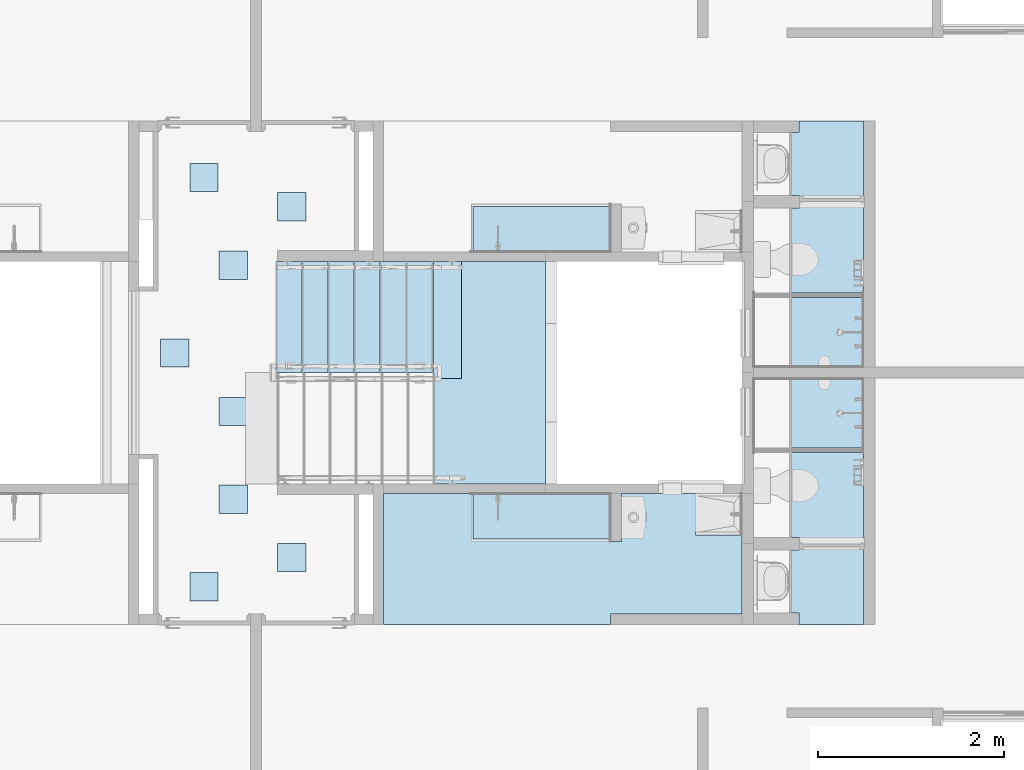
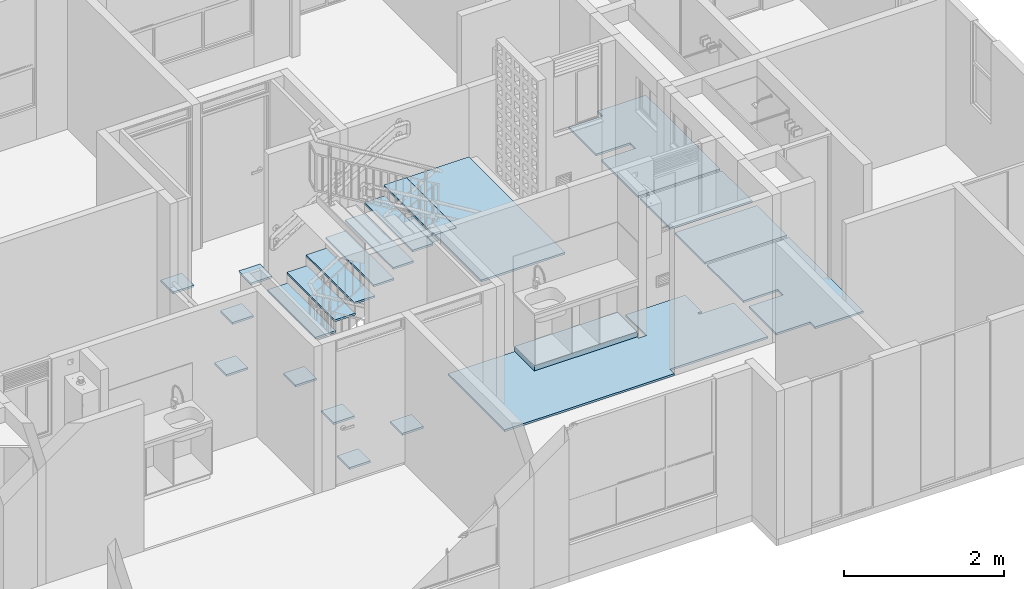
# One storey, part 2 of 51: 14 slabs.
"""IFC4 building model written with IfcOpenShell, lengths in metres."""

from ifc_helpers import new_model, entity, si_unit, converted_unit, derived_unit, direction, frame, origin, place, context, subcontext, project, spatial, indexed_curve, outline, extrude, material, constituent, constituent_set, type_object, element, save


model = new_model("IFC4")

# Units and contexts
model_context = context("Model", 3, precision=1e-05, world=origin(), true_north=direction((6.123031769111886e-17, 1.0)))
body_context = subcontext(model_context, "Body", "Model", "MODEL_VIEW")
ifc_project = project(units=[si_unit("LENGTHUNIT", "METRE"), si_unit("AREAUNIT", "SQUARE_METRE"), si_unit("VOLUMEUNIT", "CUBIC_METRE"), converted_unit("PLANEANGLEUNIT", "DEGREE", entity("IfcRatioMeasure", 0.017453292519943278), si_unit("PLANEANGLEUNIT", "RADIAN"), dimensions=[0, 0, 0, 0, 0, 0, 0]), si_unit("MASSUNIT", "GRAM", prefix="KILO"), derived_unit("MASSDENSITYUNIT", [(si_unit("MASSUNIT", "GRAM", prefix="KILO"), 1), (si_unit("LENGTHUNIT", "METRE"), -3)]), derived_unit("IONCONCENTRATIONUNIT", [(si_unit("MASSUNIT", "GRAM", prefix="KILO"), 1), (si_unit("LENGTHUNIT", "METRE"), -3)]), derived_unit("MOMENTOFINERTIAUNIT", [(si_unit("LENGTHUNIT", "METRE"), 4)]), si_unit("TIMEUNIT", "SECOND"), si_unit("FREQUENCYUNIT", "HERTZ"), si_unit("THERMODYNAMICTEMPERATUREUNIT", "DEGREE_CELSIUS"), derived_unit("THERMALTRANSMITTANCEUNIT", [(si_unit("MASSUNIT", "GRAM", prefix="KILO"), 1), (si_unit("THERMODYNAMICTEMPERATUREUNIT", "KELVIN"), -1), (si_unit("TIMEUNIT", "SECOND"), -3)]), derived_unit("THERMALCONDUCTANCEUNIT", [(si_unit("MASSUNIT", "GRAM", prefix="KILO"), 1), (si_unit("THERMODYNAMICTEMPERATUREUNIT", "KELVIN"), -1), (si_unit("TIMEUNIT", "SECOND"), -3), (si_unit("LENGTHUNIT", "METRE"), 1)]), derived_unit("VOLUMETRICFLOWRATEUNIT", [(si_unit("LENGTHUNIT", "METRE"), 3), (si_unit("TIMEUNIT", "SECOND"), -1)]), derived_unit("MASSFLOWRATEUNIT", [(si_unit("MASSUNIT", "GRAM", prefix="KILO"), 1), (si_unit("TIMEUNIT", "SECOND"), -1)]), derived_unit("ROTATIONALFREQUENCYUNIT", [(si_unit("TIMEUNIT", "SECOND"), -1)]), si_unit("ELECTRICCURRENTUNIT", "AMPERE"), si_unit("ELECTRICVOLTAGEUNIT", "VOLT"), si_unit("POWERUNIT", "WATT"), si_unit("FORCEUNIT", "NEWTON", prefix="KILO"), si_unit("ILLUMINANCEUNIT", "LUX"), si_unit("LUMINOUSFLUXUNIT", "LUMEN"), si_unit("LUMINOUSINTENSITYUNIT", "CANDELA"), derived_unit("USERDEFINED", [(si_unit("MASSUNIT", "GRAM", prefix="KILO"), -1), (si_unit("LENGTHUNIT", "METRE"), -2), (si_unit("TIMEUNIT", "SECOND"), 3), (si_unit("LUMINOUSFLUXUNIT", "LUMEN"), 1)]), derived_unit("USERDEFINED", [(si_unit("MASSUNIT", "GRAM", prefix="KILO"), 1), (si_unit("TIMEUNIT", "SECOND"), -3), (si_unit("LENGTHUNIT", "METRE"), 3), (si_unit("ELECTRICCURRENTUNIT", "AMPERE"), -2)]), derived_unit("SOUNDPOWERUNIT", [(si_unit("MASSUNIT", "GRAM", prefix="KILO"), 1), (si_unit("TIMEUNIT", "SECOND"), -3), (si_unit("LENGTHUNIT", "METRE"), 2)]), derived_unit("SOUNDPRESSUREUNIT", [(si_unit("MASSUNIT", "GRAM", prefix="KILO"), 1), (si_unit("LENGTHUNIT", "METRE"), -1), (si_unit("TIMEUNIT", "SECOND"), -2)]), derived_unit("LINEARVELOCITYUNIT", [(si_unit("LENGTHUNIT", "METRE"), 1), (si_unit("TIMEUNIT", "SECOND"), -1)]), si_unit("PRESSUREUNIT", "PASCAL"), derived_unit("USERDEFINED", [(si_unit("MASSUNIT", "GRAM", prefix="KILO"), 1), (si_unit("LENGTHUNIT", "METRE"), -2), (si_unit("TIMEUNIT", "SECOND"), -2)]), derived_unit("LINEARFORCEUNIT", [(si_unit("MASSUNIT", "GRAM", prefix="KILO"), 1), (si_unit("TIMEUNIT", "SECOND"), -2)]), derived_unit("PLANARFORCEUNIT", [(si_unit("MASSUNIT", "GRAM", prefix="KILO"), 1), (si_unit("LENGTHUNIT", "METRE"), -1), (si_unit("TIMEUNIT", "SECOND"), -2)]), derived_unit("SPECIFICHEATCAPACITYUNIT", [(si_unit("THERMODYNAMICTEMPERATUREUNIT", "KELVIN"), -1), (si_unit("LENGTHUNIT", "METRE"), 2), (si_unit("TIMEUNIT", "SECOND"), -2)]), derived_unit("HEATINGVALUEUNIT", [(si_unit("LENGTHUNIT", "METRE"), 2), (si_unit("TIMEUNIT", "SECOND"), -2)]), derived_unit("VAPORPERMEABILITYUNIT", [(si_unit("LENGTHUNIT", "METRE"), -1), (si_unit("TIMEUNIT", "SECOND"), 1)]), derived_unit("DYNAMICVISCOSITYUNIT", [(si_unit("MASSUNIT", "GRAM", prefix="KILO"), 1), (si_unit("TIMEUNIT", "SECOND"), -1), (si_unit("LENGTHUNIT", "METRE"), -1)]), derived_unit("THERMALEXPANSIONCOEFFICIENTUNIT", [(si_unit("THERMODYNAMICTEMPERATUREUNIT", "KELVIN"), -1)]), derived_unit("MODULUSOFELASTICITYUNIT", [(si_unit("MASSUNIT", "GRAM", prefix="KILO"), 1), (si_unit("LENGTHUNIT", "METRE"), -1), (si_unit("TIMEUNIT", "SECOND"), -2)]), derived_unit("ISOTHERMALMOISTURECAPACITYUNIT", [(si_unit("LENGTHUNIT", "METRE"), 3), (si_unit("MASSUNIT", "GRAM", prefix="KILO"), -1)]), derived_unit("MOISTUREDIFFUSIVITYUNIT", [(si_unit("TIMEUNIT", "SECOND"), -1), (si_unit("LENGTHUNIT", "METRE"), 2)])], contexts=[model_context])

# Site, building, storey
site_placement = place(None, origin())
site = spatial("IfcSite", under=ifc_project, at=site_placement, Name="Default", CompositionType="ELEMENT")
building_placement = place(site_placement, origin())
building = spatial("IfcBuilding", under=site, at=building_placement, CompositionType="ELEMENT")
storey_placement = place(building_placement, frame((0.0, 0.0, 2.350000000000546)))
storey = spatial("IfcBuildingStorey", under=building, at=storey_placement, Name="Nivel 2", CompositionType="ELEMENT", Elevation=2.350000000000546)

# Slabs
ifc_material_1 = material(Name="Ceramica 0.45m x 0.45m gris", Category="Materials")
ifc_constituent_1 = constituent(ifc_material_1, Name="Ceramica 0.45m x 0.45m gris", Category="Materials")
ifc_material_2 = material(Name="Mortero de pega", Category="Materials")
ifc_constituent_2 = constituent(ifc_material_2, Name="Mortero de pega", Category="Materials")
ifc_constituent_set_1 = constituent_set(constituents=[ifc_constituent_1, ifc_constituent_2], Name="Floor:C2030.20 - 0.45 x 0.45 - Enchape cerámico - Mortero de Pega + Cerámica gris")
slab_type_1 = type_object("IfcSlabType", Name="Floor:C2030.20 - 0.45 x 0.45 - Enchape cerámico - Mortero de Pega + Cerámica gris", PredefinedType="FLOOR", material=ifc_constituent_set_1)
slab_1_placement = place(storey_placement, origin())
element("IfcSlab", 1, at=slab_1_placement, inside=storey, type_object=slab_type_1, material=ifc_constituent_set_1, Name="Floor:C2030.20 - 0.45 x 0.45 - Enchape cerámico - Mortero de Pega + Cerámica gris", ObjectType="Floor:C2030.20 - 0.45 x 0.45 - Enchape cerámico - Mortero de Pega + Cerámica gris", PredefinedType="FLOOR", context=body_context, shape_type="SweptSolid", body=[
    extrude(outline(indexed_curve([(-0.5924994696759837, -0.3749999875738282), (0.5924994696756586, -0.3749999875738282), (0.5924994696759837, 0.3749999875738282), (-0.5924994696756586, 0.3749999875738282), (-0.5924994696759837, -0.3749999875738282)], self_intersect=False)), frame((15.274999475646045, -5.990000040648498, 0.020000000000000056)), (0.0, 0.0, 1.0), 0.009999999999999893),
    extrude(outline(indexed_curve([(0.19500000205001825, -0.43399957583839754), (1.1099999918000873, -0.4339995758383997), (1.109999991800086, 0.7509993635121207), (-0.7449999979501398, 0.7509993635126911), (-0.7449999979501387, 0.056000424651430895), (-0.6199999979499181, 0.05600042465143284), (-0.6199999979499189, -0.43399957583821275), (0.06000000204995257, -0.4339995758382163), (0.060000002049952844, 0.060999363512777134), (0.19500000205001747, 0.06099936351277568), (0.19500000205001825, -0.43399957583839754)], self_intersect=False)), frame((15.116499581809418, -4.45500006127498, 0.020000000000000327), z_axis=(0.0, 0.0, 1.0), x_axis=(0.0, -1.0, 0.0)), (0.0, 0.0, 1.0), 0.009999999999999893),
    extrude(outline(indexed_curve([(-1.1099999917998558, -0.7509993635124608), (0.74499999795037, -0.7509993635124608), (0.7449999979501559, -0.05600042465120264), (0.6199999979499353, -0.056000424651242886), (0.6199999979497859, 0.4339995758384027), (-0.06000000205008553, 0.43399957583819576), (-0.06000000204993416, -0.060999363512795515), (-0.1950000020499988, -0.060999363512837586), (-0.19500000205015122, 0.4339995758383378), (-1.1099999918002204, 0.4339995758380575), (-1.1099999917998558, -0.7509993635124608)], self_intersect=False)), frame((15.116499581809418, -4.45500006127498, 0.0), z_axis=(0.0, 0.0, 1.0), x_axis=(0.0, 1.0, 0.0)), (0.0, 0.0, 1.0), 0.020000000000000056),
    extrude(outline(indexed_curve([(-0.5924994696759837, -0.3749999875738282), (0.5924994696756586, -0.3749999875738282), (0.5924994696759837, 0.3749999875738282), (-0.5924994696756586, 0.3749999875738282), (-0.5924994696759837, -0.3749999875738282)], self_intersect=False)), frame((15.274999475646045, -5.990000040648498, 0.0)), (0.0, 0.0, 1.0), 0.020000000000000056),
])
slab_2_placement = place(storey_placement, origin())
element("IfcSlab", 2, at=slab_2_placement, inside=storey, type_object=slab_type_1, material=ifc_constituent_set_1, Name="Floor:C2030.20 - 0.45 x 0.45 - Enchape cerámico - Mortero de Pega + Cerámica gris", ObjectType="Floor:C2030.20 - 0.45 x 0.45 - Enchape cerámico - Mortero de Pega + Cerámica gris", PredefinedType="FLOOR", context=body_context, shape_type="SweptSolid", body=[
    extrude(outline(indexed_curve([(-0.5924994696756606, -0.37499998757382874), (0.5924994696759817, -0.37499998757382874), (0.5924994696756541, 0.37499998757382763), (-0.592499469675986, 0.37499998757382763), (-0.5924994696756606, -0.37499998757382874)], self_intersect=False)), frame((15.274999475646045, -6.8600000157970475, 0.019999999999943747)), (0.0, 0.0, 1.0), 0.009999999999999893),
    extrude(outline(indexed_curve([(-0.19500000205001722, -0.06099936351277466), (-0.19500000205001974, 0.4339995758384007), (-1.1099999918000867, 0.43399957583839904), (-1.109999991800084, -0.750999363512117), (0.7449999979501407, -0.750999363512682), (0.744999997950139, -0.056000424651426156), (0.6199999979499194, -0.05600042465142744), (0.6199999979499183, 0.43399957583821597), (-0.0600000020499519, 0.43399957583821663), (-0.06000000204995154, -0.06099936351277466), (-0.19500000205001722, -0.06099936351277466)], self_intersect=False)), frame((15.116499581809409, -8.394999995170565, 0.019999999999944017), z_axis=(0.0, 0.0, -1.0), x_axis=(0.0, -1.0, 0.0)), (0.0, 0.0, -1.0), 0.009999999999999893),
    extrude(outline(indexed_curve([(-0.7509993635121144, -1.1099999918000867), (0.4339995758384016, -1.1099999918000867), (0.4339995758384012, -0.19500000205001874), (-0.0609993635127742, -0.19500000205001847), (-0.06099936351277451, -0.06000000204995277), (0.4339995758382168, -0.06000000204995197), (0.4339995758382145, 0.6199999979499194), (-0.05600042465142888, 0.6199999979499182), (-0.0560004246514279, 0.7449999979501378), (-0.750999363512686, 0.7449999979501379), (-0.7509993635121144, -1.1099999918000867)], self_intersect=False)), frame((15.116499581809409, -8.394999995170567, 0.0), z_axis=(0.0, 0.0, 1.0), x_axis=(-1.0, 0.0, 0.0)), (0.0, 0.0, 1.0), 0.020000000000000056),
    extrude(outline(indexed_curve([(-0.37499998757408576, -0.5924994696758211), (0.3749999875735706, -0.5924994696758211), (0.3749999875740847, 0.5924994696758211), (-0.37499998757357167, 0.5924994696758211), (-0.37499998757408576, -0.5924994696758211)], self_intersect=False)), frame((15.274999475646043, -6.860000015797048, 0.0), z_axis=(0.0, 0.0, 1.0), x_axis=(0.0, -1.0, 0.0)), (0.0, 0.0, 1.0), 0.020000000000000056),
])
slab_3_placement = place(storey_placement, origin())
element("IfcSlab", 3, at=slab_3_placement, inside=storey, type_object=slab_type_1, material=ifc_constituent_set_1, Name="Floor:C2030.20 - 0.45 x 0.45 - Enchape cerámico - Mortero de Pega + Cerámica gris", ObjectType="Floor:C2030.20 - 0.45 x 0.45 - Enchape cerámico - Mortero de Pega + Cerámica gris", PredefinedType="FLOOR", context=body_context, shape_type="SweptSolid", body=[
    extrude(outline(indexed_curve([(0.06375012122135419, -0.7259999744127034), (1.4787501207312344, -0.7259999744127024), (1.4787501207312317, 0.1239999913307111), (0.9787496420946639, 0.12399999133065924), (0.9787496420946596, 0.15799999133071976), (1.038749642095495, 0.15799999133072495), (1.0387496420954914, 0.5734999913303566), (0.1787501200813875, 0.5734999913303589), (0.17875012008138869, 0.05399999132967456), (0.06375012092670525, 0.053999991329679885), (0.06375012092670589, 0.08399999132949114), (-1.4212498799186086, 0.08399999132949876), (-1.4212498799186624, 0.573499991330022), (-2.3812498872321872, 0.5734999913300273), (-2.381249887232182, -0.8409999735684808), (0.0637501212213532, -0.8409999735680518), (0.06375012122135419, -0.7259999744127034)], self_intersect=False)), frame((13.07874988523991, -8.299000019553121, 0.019999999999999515)), (0.0, 0.0, 1.0), 0.009999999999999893),
    extrude(outline(indexed_curve([(-0.8409999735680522, 0.06375012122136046), (-0.8409999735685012, -2.3812498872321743), (0.5734999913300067, -2.381249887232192), (0.5734999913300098, -1.4212498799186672), (0.08399999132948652, -1.4212498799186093), (0.08399999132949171, 0.06375012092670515), (0.05399999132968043, 0.06375012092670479), (0.0539999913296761, 0.17875012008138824), (0.5734999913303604, 0.17875012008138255), (0.5734999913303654, 1.0387496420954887), (0.15799999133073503, 1.0387496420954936), (0.15799999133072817, 0.9787496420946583), (0.12399999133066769, 0.9787496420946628), (0.12399999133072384, 1.4787501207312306), (-0.7259999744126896, 1.4787501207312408), (-0.7259999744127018, 0.06375012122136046), (-0.8409999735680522, 0.06375012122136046)], self_intersect=False)), frame((13.07874988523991, -8.299000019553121, 0.0), z_axis=(0.0, 0.0, -1.0), x_axis=(0.0, 1.0, 0.0)), (0.0, 0.0, -1.0), 0.020000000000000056),
])
ifc_material_3 = material(Name="escalgres", Category="Materials")
ifc_constituent_3 = constituent(ifc_material_3, Name="escalgres", Category="Materials")
ifc_constituent_4 = constituent(ifc_material_2, Name="Mortero de pega", Category="Materials")
ifc_constituent_set_2 = constituent_set(constituents=[ifc_constituent_3, ifc_constituent_4], Name="Floor:C2030.20 -30x30- Escalgres - Gres")
slab_type_2 = type_object("IfcSlabType", Name="Floor:C2030.20 -30x30- Escalgres - Gres", PredefinedType="FLOOR", material=ifc_constituent_set_2)
slab_4_placement = place(storey_placement, origin())
element("IfcSlab", 4, at=slab_4_placement, inside=storey, type_object=slab_type_2, material=ifc_constituent_set_2, Name="Floor:C2030.20 -30x30- Escalgres - Gres", ObjectType="Floor:C2030.20 -30x30- Escalgres - Gres", PredefinedType="FLOOR", context=body_context, shape_type="SweptSolid", body=[
    extrude(outline(indexed_curve([(-0.14749999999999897, -0.6000000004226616), (0.14750000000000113, -0.6000000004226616), (0.14750000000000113, 0.6000000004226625), (-0.14749999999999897, 0.6000000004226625), (-0.14749999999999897, -0.6000000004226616)], self_intersect=False)), frame((9.685000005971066, -5.825000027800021, 0.18785714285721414), z_axis=(0.0, 0.0, 1.0), x_axis=(-1.0, 0.0, 0.0)), (0.0, 0.0, 1.0), 0.009999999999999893),
    extrude(outline(indexed_curve([(-0.14749999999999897, -0.6000000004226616), (0.14750000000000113, -0.6000000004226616), (0.14750000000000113, 0.6000000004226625), (-0.14749999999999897, 0.6000000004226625), (-0.14749999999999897, -0.6000000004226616)], self_intersect=False)), frame((9.685000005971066, -5.825000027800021, 0.1678571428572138), z_axis=(0.0, 0.0, 1.0), x_axis=(-1.0, 0.0, 0.0)), (0.0, 0.0, 1.0), 0.020000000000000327),
])
slab_5_placement = place(storey_placement, origin())
element("IfcSlab", 5, at=slab_5_placement, inside=storey, type_object=slab_type_2, material=ifc_constituent_set_2, Name="Floor:C2030.20 -30x30- Escalgres - Gres", ObjectType="Floor:C2030.20 -30x30- Escalgres - Gres", PredefinedType="FLOOR", context=body_context, shape_type="SweptSolid", body=[
    extrude(outline(indexed_curve([(-0.14749999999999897, -0.6000000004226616), (0.14750000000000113, -0.6000000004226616), (0.14750000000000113, 0.6000000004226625), (-0.14749999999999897, 0.6000000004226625), (-0.14749999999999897, -0.6000000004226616)], self_intersect=False)), frame((9.965000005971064, -5.825000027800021, 0.35571428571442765), z_axis=(0.0, 0.0, 1.0), x_axis=(-1.0, 0.0, 0.0)), (0.0, 0.0, 1.0), 0.009999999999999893),
    extrude(outline(indexed_curve([(-0.14749999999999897, -0.6000000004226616), (0.14750000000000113, -0.6000000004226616), (0.14750000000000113, 0.6000000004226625), (-0.14749999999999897, 0.6000000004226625), (-0.14749999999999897, -0.6000000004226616)], self_intersect=False)), frame((9.965000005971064, -5.825000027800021, 0.33571428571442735), z_axis=(0.0, 0.0, 1.0), x_axis=(-1.0, 0.0, 0.0)), (0.0, 0.0, 1.0), 0.020000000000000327),
])
slab_6_placement = place(storey_placement, origin())
element("IfcSlab", 6, at=slab_6_placement, inside=storey, type_object=slab_type_2, material=ifc_constituent_set_2, Name="Floor:C2030.20 -30x30- Escalgres - Gres", ObjectType="Floor:C2030.20 -30x30- Escalgres - Gres", PredefinedType="FLOOR", context=body_context, shape_type="SweptSolid", body=[
    extrude(outline(indexed_curve([(-0.14749999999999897, -0.6000000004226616), (0.1474999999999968, -0.6000000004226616), (0.1474999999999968, 0.6000000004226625), (-0.14749999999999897, 0.6000000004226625), (-0.14749999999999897, -0.6000000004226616)], self_intersect=False)), frame((10.245000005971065, -5.825000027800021, 0.5235714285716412), z_axis=(0.0, 0.0, 1.0), x_axis=(-1.0, 0.0, 0.0)), (0.0, 0.0, 1.0), 0.009999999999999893),
    extrude(outline(indexed_curve([(-0.14749999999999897, -0.6000000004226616), (0.1474999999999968, -0.6000000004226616), (0.1474999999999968, 0.6000000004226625), (-0.14749999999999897, 0.6000000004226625), (-0.14749999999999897, -0.6000000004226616)], self_intersect=False)), frame((10.245000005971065, -5.825000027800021, 0.5035714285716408), z_axis=(0.0, 0.0, 1.0), x_axis=(-1.0, 0.0, 0.0)), (0.0, 0.0, 1.0), 0.020000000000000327),
])
slab_7_placement = place(storey_placement, origin())
element("IfcSlab", 7, at=slab_7_placement, inside=storey, type_object=slab_type_2, material=ifc_constituent_set_2, Name="Floor:C2030.20 -30x30- Escalgres - Gres", ObjectType="Floor:C2030.20 -30x30- Escalgres - Gres", PredefinedType="FLOOR", context=body_context, shape_type="SweptSolid", body=[
    extrude(outline(indexed_curve([(-0.14750000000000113, -0.6000000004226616), (0.14750000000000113, -0.6000000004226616), (0.14750000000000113, 0.6000000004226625), (-0.14750000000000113, 0.6000000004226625), (-0.14750000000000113, -0.6000000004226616)], self_intersect=False)), frame((10.525000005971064, -5.825000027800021, 0.6914285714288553), z_axis=(0.0, 0.0, 1.0), x_axis=(-1.0, 0.0, 0.0)), (0.0, 0.0, 1.0), 0.009999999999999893),
    extrude(outline(indexed_curve([(-0.14750000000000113, -0.6000000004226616), (0.14750000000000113, -0.6000000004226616), (0.14750000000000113, 0.6000000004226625), (-0.14750000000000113, 0.6000000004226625), (-0.14750000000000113, -0.6000000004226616)], self_intersect=False)), frame((10.525000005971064, -5.825000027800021, 0.6714285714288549), z_axis=(0.0, 0.0, 1.0), x_axis=(-1.0, 0.0, 0.0)), (0.0, 0.0, 1.0), 0.020000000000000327),
])
slab_8_placement = place(storey_placement, origin())
element("IfcSlab", 8, at=slab_8_placement, inside=storey, type_object=slab_type_2, material=ifc_constituent_set_2, Name="Floor:C2030.20 -30x30- Escalgres - Gres", ObjectType="Floor:C2030.20 -30x30- Escalgres - Gres", PredefinedType="FLOOR", context=body_context, shape_type="SweptSolid", body=[
    extrude(outline(indexed_curve([(-0.14749999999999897, -0.6000000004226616), (0.14750000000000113, -0.6000000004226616), (0.14750000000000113, 0.6000000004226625), (-0.14749999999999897, 0.6000000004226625), (-0.14749999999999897, -0.6000000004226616)], self_intersect=False)), frame((10.805000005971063, -5.825000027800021, 0.8592857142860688), z_axis=(0.0, 0.0, 1.0), x_axis=(-1.0, 0.0, 0.0)), (0.0, 0.0, 1.0), 0.009999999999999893),
    extrude(outline(indexed_curve([(-0.14749999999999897, -0.6000000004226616), (0.14750000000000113, -0.6000000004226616), (0.14750000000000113, 0.6000000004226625), (-0.14749999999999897, 0.6000000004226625), (-0.14749999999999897, -0.6000000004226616)], self_intersect=False)), frame((10.805000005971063, -5.825000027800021, 0.8392857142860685), z_axis=(0.0, 0.0, 1.0), x_axis=(-1.0, 0.0, 0.0)), (0.0, 0.0, 1.0), 0.020000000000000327),
])
slab_9_placement = place(storey_placement, origin())
element("IfcSlab", 9, at=slab_9_placement, inside=storey, type_object=slab_type_2, material=ifc_constituent_set_2, Name="Floor:C2030.20 -30x30- Escalgres - Gres", ObjectType="Floor:C2030.20 -30x30- Escalgres - Gres", PredefinedType="FLOOR", context=body_context, shape_type="SweptSolid", body=[
    extrude(outline(indexed_curve([(-0.14749999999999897, -0.6000000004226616), (0.14749999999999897, -0.6000000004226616), (0.14749999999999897, 0.6000000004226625), (-0.14749999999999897, 0.6000000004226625), (-0.14749999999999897, -0.6000000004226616)], self_intersect=False)), frame((11.085000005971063, -5.825000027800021, 1.0271428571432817), z_axis=(0.0, 0.0, 1.0), x_axis=(-1.0, 0.0, 0.0)), (0.0, 0.0, 1.0), 0.009999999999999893),
    extrude(outline(indexed_curve([(-0.14749999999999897, -0.6000000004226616), (0.14749999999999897, -0.6000000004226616), (0.14749999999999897, 0.6000000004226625), (-0.14749999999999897, 0.6000000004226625), (-0.14749999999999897, -0.6000000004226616)], self_intersect=False)), frame((11.085000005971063, -5.825000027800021, 1.0071428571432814), z_axis=(0.0, 0.0, 1.0), x_axis=(-1.0, 0.0, 0.0)), (0.0, 0.0, 1.0), 0.020000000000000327),
])
slab_10_placement = place(storey_placement, origin())
element("IfcSlab", 10, at=slab_10_placement, inside=storey, type_object=slab_type_2, material=ifc_constituent_set_2, Name="Floor:C2030.20 -30x30- Escalgres - Gres", ObjectType="Floor:C2030.20 -30x30- Escalgres - Gres", PredefinedType="FLOOR", context=body_context, shape_type="SweptSolid", body=[
    extrude(outline(indexed_curve([(-0.5050000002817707, -1.1798333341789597), (0.7050000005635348, -1.1798333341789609), (0.7050000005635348, 1.220166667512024), (-0.20000000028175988, 1.220166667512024), (-0.20000000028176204, -0.040333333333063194), (-0.5050000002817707, -0.04033333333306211), (-0.5050000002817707, -1.1798333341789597)], self_intersect=False)), frame((11.737500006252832, -6.445166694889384, 1.194999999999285)), (0.0, 0.0, 1.0), 0.009999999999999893),
    extrude(outline(indexed_curve([(-0.5050000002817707, -1.1798333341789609), (0.7050000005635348, -1.1798333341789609), (0.7050000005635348, 1.220166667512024), (-0.20000000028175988, 1.220166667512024), (-0.20000000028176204, -0.040333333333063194), (-0.5050000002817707, -0.04033333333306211), (-0.5050000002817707, -1.1798333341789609)], self_intersect=False)), frame((11.737500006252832, -6.445166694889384, 1.1749999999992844)), (0.0, 0.0, 1.0), 0.020000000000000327),
])
slab_11_placement = place(storey_placement, origin())
element("IfcSlab", 11, at=slab_11_placement, inside=storey, type_object=slab_type_2, material=ifc_constituent_set_2, Name="Floor:C2030.20 -30x30- Escalgres - Gres", ObjectType="Floor:C2030.20 -30x30- Escalgres - Gres", PredefinedType="FLOOR", context=body_context, shape_type="SweptSolid", body=[
    extrude(outline(indexed_curve([(-0.09666666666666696, -0.4403333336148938), (0.20833333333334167, -0.4403333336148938), (0.20833333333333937, 0.8201666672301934), (-0.11166666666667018, 0.8201666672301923), (-0.11166666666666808, -0.37983333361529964), (-0.09666666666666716, -0.3798333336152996), (-0.09666666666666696, -0.4403333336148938)], self_intersect=False)), frame((11.32916667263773, -6.045166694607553, 1.1949999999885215)), (0.0, 0.0, 1.0), 0.009999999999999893),
    extrude(outline(indexed_curve([(-0.09666666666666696, -0.4403333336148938), (0.20833333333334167, -0.4403333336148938), (0.20833333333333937, 0.8201666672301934), (-0.11166666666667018, 0.8201666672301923), (-0.11166666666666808, -0.37983333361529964), (-0.09666666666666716, -0.3798333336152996), (-0.09666666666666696, -0.4403333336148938)], self_intersect=False)), frame((11.32916667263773, -6.045166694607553, 1.1749999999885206)), (0.0, 0.0, 1.0), 0.020000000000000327),
])
ifc_material_4 = material(Name="Concreto (Aire)", Category="Materials")
slab_type_3 = type_object("IfcSlabType", Name="Floor:B1010 - 0.10m - Poyo - Concreto", PredefinedType="FLOOR", material=ifc_material_4)
slab_12_placement = place(storey_placement, origin())
element("IfcSlab", 12, at=slab_12_placement, inside=storey, type_object=slab_type_3, material=ifc_material_4, Name="Floor:B1010 - 0.10m - Poyo - Concreto", ObjectType="Floor:B1010 - 0.10m - Poyo - Concreto", PredefinedType="FLOOR", context=body_context, shape_type="SweptSolid", body=[
    extrude(outline(indexed_curve([(-0.24475000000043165, -0.7425000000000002), (0.24475000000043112, -0.7425000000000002), (0.24475000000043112, 0.7425000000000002), (-0.24475000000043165, 0.7425000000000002), (-0.24475000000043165, -0.7425000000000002)], self_intersect=False)), frame((12.400000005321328, -4.879750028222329, 0.11000000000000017), z_axis=(0.0, 0.0, -1.0), x_axis=(0.0, 1.0, 0.0)), (0.0, 0.0, 1.0), 0.1099999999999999),
])
slab_13_placement = place(storey_placement, origin())
element("IfcSlab", 13, at=slab_13_placement, inside=storey, type_object=slab_type_3, material=ifc_material_4, Name="Floor:B1010 - 0.10m - Poyo - Concreto", ObjectType="Floor:B1010 - 0.10m - Poyo - Concreto", PredefinedType="FLOOR", context=body_context, shape_type="SweptSolid", body=[
    extrude(outline(indexed_curve([(-0.2447500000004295, -0.742499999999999), (0.24475000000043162, -0.742499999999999), (0.24475000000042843, 0.7425000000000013), (-0.2447500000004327, 0.7425000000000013), (-0.2447500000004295, -0.742499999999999)], self_intersect=False)), frame((12.400000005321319, -7.9702500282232, 0.11000000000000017), z_axis=(0.0, 0.0, -1.0), x_axis=(0.0, 1.0, 0.0)), (0.0, 0.0, 1.0), 0.1099999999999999),
])
ifc_material_5 = material(Name="PISO GRES moca 30X30", Category="Materials")
ifc_constituent_5 = constituent(ifc_material_5, Name="PISO GRES moca 30X30", Category="Materials")
ifc_constituent_6 = constituent(ifc_material_2, Name="Mortero de pega", Category="Materials")
ifc_constituent_set_3 = constituent_set(constituents=[ifc_constituent_5, ifc_constituent_6], Name="Floor:C2030.20 - Piso en gres - Gres moca")
slab_type_4 = type_object("IfcSlabType", Name="Floor:C2030.20 - Piso en gres - Gres moca", PredefinedType="FLOOR", material=ifc_constituent_set_3)
slab_14_placement = place(storey_placement, origin())
element("IfcSlab", 14, at=slab_14_placement, inside=storey, type_object=slab_type_4, material=ifc_constituent_set_3, Name="Floor:C2030.20 - Piso en gres - Gres moca", ObjectType="Floor:C2030.20 - Piso en gres - Gres moca", PredefinedType="FLOOR", context=body_context, shape_type="SweptSolid", body=[
    extrude(outline(indexed_curve([(-0.15249999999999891, -0.15249999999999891), (0.15249999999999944, -0.1525), (0.15249999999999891, 0.15250000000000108), (-0.15249999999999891, 0.1525), (-0.15249999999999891, -0.15249999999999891)], self_intersect=False)), frame((8.760000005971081, -4.32250002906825, 0.020000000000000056), z_axis=(0.0, 0.0, 1.0), x_axis=(0.0, -1.0, 0.0)), (0.0, 0.0, 1.0), 0.009999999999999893),
    extrude(outline(indexed_curve([(-0.1525, -0.15250000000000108), (0.15250000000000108, -0.15250000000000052), (0.15250000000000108, 0.15250000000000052), (-0.1525, 0.15250000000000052), (-0.1525, -0.15250000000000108)], self_intersect=False)), frame((9.705000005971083, -4.637500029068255, 0.020000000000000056)), (0.0, 0.0, 1.0), 0.009999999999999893),
    extrude(outline(indexed_curve([(-0.1525, -0.15250000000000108), (0.1525, -0.15250000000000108), (0.1525, 0.1525), (-0.1525, 0.1525), (-0.1525, -0.15250000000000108)], self_intersect=False)), frame((9.075000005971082, -5.267500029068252, 0.020000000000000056), z_axis=(0.0, 0.0, 1.0), x_axis=(-1.0, 0.0, 0.0)), (0.0, 0.0, 1.0), 0.009999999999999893),
    extrude(outline(indexed_curve([(-0.1525, -0.1525), (0.15249999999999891, -0.15250000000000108), (0.15249999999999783, 0.1525), (-0.1525, 0.1525), (-0.1525, -0.1525)], self_intersect=False)), frame((8.445000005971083, -6.212500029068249, 0.020000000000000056), z_axis=(0.0, 0.0, 1.0), x_axis=(0.0, -1.0, 0.0)), (0.0, 0.0, 1.0), 0.009999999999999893),
    extrude(outline(indexed_curve([(-0.1525, -0.1525), (0.15249999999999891, -0.15249999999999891), (0.15249999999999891, 0.1525), (-0.1525, 0.1525), (-0.1525, -0.1525)], self_intersect=False)), frame((9.075000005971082, -6.842500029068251, 0.020000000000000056), z_axis=(0.0, 0.0, 1.0), x_axis=(0.0, 1.0, 0.0)), (0.0, 0.0, 1.0), 0.009999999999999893),
    extrude(outline(indexed_curve([(-0.1525, -0.1525), (0.15249999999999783, -0.15249999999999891), (0.15249999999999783, 0.1525), (-0.1525, 0.1525), (-0.1525, -0.1525)], self_intersect=False)), frame((9.075000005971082, -7.787500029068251, 0.020000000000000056), z_axis=(0.0, 0.0, 1.0), x_axis=(0.0, 1.0, 0.0)), (0.0, 0.0, 1.0), 0.009999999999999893),
    extrude(outline(indexed_curve([(-0.15250000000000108, -0.1525), (0.1525, -0.1525), (0.15250000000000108, 0.15250000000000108), (-0.15250000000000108, 0.1525), (-0.15250000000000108, -0.1525)], self_intersect=False)), frame((9.705000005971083, -8.417500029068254, 0.020000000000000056), z_axis=(0.0, 0.0, 1.0), x_axis=(-1.0, 0.0, 0.0)), (0.0, 0.0, 1.0), 0.009999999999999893),
    extrude(outline(indexed_curve([(-0.15249999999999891, -0.15249999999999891), (0.1525, -0.1525), (0.1525, 0.15250000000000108), (-0.15249999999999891, 0.1525), (-0.15249999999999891, -0.15249999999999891)], self_intersect=False)), frame((8.760000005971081, -8.73250002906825, 0.020000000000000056), z_axis=(0.0, 0.0, 1.0), x_axis=(0.0, -1.0, 0.0)), (0.0, 0.0, 1.0), 0.009999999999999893),
    extrude(outline(indexed_curve([(-0.15249999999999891, -0.1525), (0.15249999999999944, -0.1525), (0.15249999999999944, 0.1525), (-0.15249999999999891, 0.1525), (-0.15249999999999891, -0.1525)], self_intersect=False)), frame((8.760000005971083, -4.32250002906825, 0.0), z_axis=(0.0, 0.0, 1.0), x_axis=(0.0, -1.0, 0.0)), (0.0, 0.0, 1.0), 0.020000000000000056),
    extrude(outline(indexed_curve([(-0.15250000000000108, -0.15250000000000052), (0.1525, -0.15250000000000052), (0.1525, 0.15250000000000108), (-0.15250000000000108, 0.15250000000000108), (-0.15250000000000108, -0.15250000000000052)], self_intersect=False)), frame((9.705000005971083, -4.637500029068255, 0.0)), (0.0, 0.0, 1.0), 0.020000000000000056),
    extrude(outline(indexed_curve([(-0.1525, -0.15250000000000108), (0.1525, -0.15250000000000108), (0.1525, 0.1525), (-0.1525, 0.1525), (-0.1525, -0.15250000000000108)], self_intersect=False)), frame((9.075000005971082, -5.267500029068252, 0.0), z_axis=(0.0, 0.0, 1.0), x_axis=(-1.0, 0.0, 0.0)), (0.0, 0.0, 1.0), 0.020000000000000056),
    extrude(outline(indexed_curve([(-0.1525, -0.1525), (0.15249999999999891, -0.1525), (0.15249999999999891, 0.1525), (-0.1525, 0.1525), (-0.1525, -0.1525)], self_intersect=False)), frame((8.445000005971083, -6.212500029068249, 0.0), z_axis=(0.0, 0.0, 1.0), x_axis=(0.0, -1.0, 0.0)), (0.0, 0.0, 1.0), 0.020000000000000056),
    extrude(outline(indexed_curve([(-0.1525, -0.1525), (0.15249999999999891, -0.1525), (0.15249999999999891, 0.1525), (-0.1525, 0.1525), (-0.1525, -0.1525)], self_intersect=False)), frame((9.075000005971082, -6.842500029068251, 0.0), z_axis=(0.0, 0.0, 1.0), x_axis=(0.0, 1.0, 0.0)), (0.0, 0.0, 1.0), 0.020000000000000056),
    extrude(outline(indexed_curve([(-0.1525, -0.1525), (0.15249999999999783, -0.1525), (0.15249999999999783, 0.1525), (-0.1525, 0.1525), (-0.1525, -0.1525)], self_intersect=False)), frame((9.075000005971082, -7.787500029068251, 0.0), z_axis=(0.0, 0.0, 1.0), x_axis=(0.0, 1.0, 0.0)), (0.0, 0.0, 1.0), 0.020000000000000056),
    extrude(outline(indexed_curve([(-0.15249999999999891, -0.1525), (0.1525, -0.1525), (0.1525, 0.1525), (-0.15249999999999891, 0.1525), (-0.15249999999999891, -0.1525)], self_intersect=False)), frame((8.760000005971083, -8.73250002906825, 0.0), z_axis=(0.0, 0.0, 1.0), x_axis=(0.0, -1.0, 0.0)), (0.0, 0.0, 1.0), 0.020000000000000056),
    extrude(outline(indexed_curve([(-0.1525, -0.15250000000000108), (0.15250000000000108, -0.15250000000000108), (0.15250000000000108, 0.1525), (-0.1525, 0.1525), (-0.1525, -0.15250000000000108)], self_intersect=False)), frame((9.705000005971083, -8.417500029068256, 0.0), z_axis=(0.0, 0.0, 1.0), x_axis=(-1.0, 0.0, 0.0)), (0.0, 0.0, 1.0), 0.020000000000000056),
])

save(model, "model.ifc")
